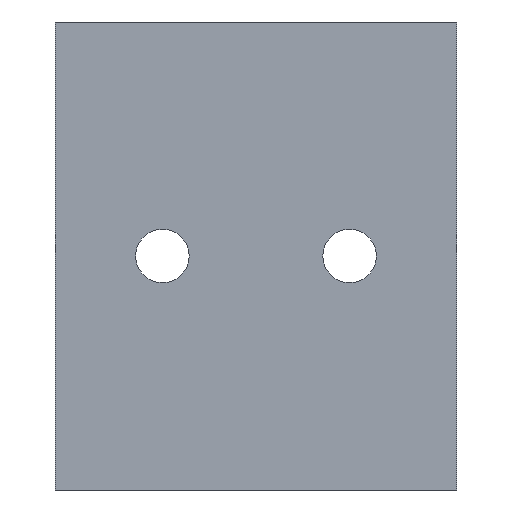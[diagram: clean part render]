
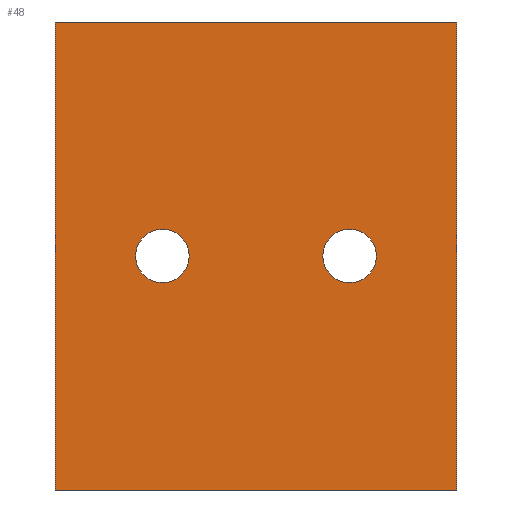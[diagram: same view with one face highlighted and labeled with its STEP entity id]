
A CAD part, front view. The second image highlights one B-rep face of the part: STEP entity #48.
In plain terms, the highlighted planar face has unit normal (0, -1, 0).
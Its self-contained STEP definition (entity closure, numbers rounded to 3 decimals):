
#2 = CARTESIAN_POINT ( 'NONE',  ( -31.598, -5.171, 19.5 ) ) ;
#14 = ORIENTED_EDGE ( 'NONE', *, *, #480, .F. ) ;
#25 = VERTEX_POINT ( 'NONE', #2 ) ;
#32 = CARTESIAN_POINT ( 'NONE',  ( -31.598, -5.171, 15.5 ) ) ;
#43 = EDGE_CURVE ( 'NONE', #501, #522, #181, .T. ) ;
#48 = ADVANCED_FACE ( 'NONE', ( #494, #343, #261 ), #108, .F. ) ;
#59 = AXIS2_PLACEMENT_3D ( 'NONE', #614, #364, #269 ) ;
#71 = ORIENTED_EDGE ( 'NONE', *, *, #488, .T. ) ;
#80 = LINE ( 'NONE', #277, #282 ) ;
#81 = DIRECTION ( 'NONE',  ( -1., 0., 0. ) ) ;
#84 = DIRECTION ( 'NONE',  ( 1., 0., 0. ) ) ;
#106 = ORIENTED_EDGE ( 'NONE', *, *, #321, .T. ) ;
#108 = PLANE ( 'NONE',  #617 ) ;
#111 = EDGE_CURVE ( 'NONE', #25, #322, #165, .T. ) ;
#118 = DIRECTION ( 'NONE',  ( 0., 1., 0. ) ) ;
#126 = VERTEX_POINT ( 'NONE', #287 ) ;
#127 = AXIS2_PLACEMENT_3D ( 'NONE', #398, #118, #604 ) ;
#128 = CARTESIAN_POINT ( 'NONE',  ( -39.598, -5.171, 10. ) ) ;
#134 = DIRECTION ( 'NONE',  ( 1., 0., 0. ) ) ;
#148 = AXIS2_PLACEMENT_3D ( 'NONE', #353, #325, #81 ) ;
#150 = CIRCLE ( 'NONE', #59, 2. ) ;
#154 = ORIENTED_EDGE ( 'NONE', *, *, #539, .T. ) ;
#165 = CIRCLE ( 'NONE', #381, 2. ) ;
#168 = EDGE_LOOP ( 'NONE', ( #106, #397, #14, #570 ) ) ;
#169 = LINE ( 'NONE', #128, #557 ) ;
#181 = CIRCLE ( 'NONE', #127, 2. ) ;
#185 = VECTOR ( 'NONE', #134, 1000. ) ;
#213 = CARTESIAN_POINT ( 'NONE',  ( -39.598, -5.171, 10. ) ) ;
#223 = EDGE_CURVE ( 'NONE', #359, #340, #169, .T. ) ;
#226 = CARTESIAN_POINT ( 'NONE',  ( -17.598, -5.171, 19.5 ) ) ;
#255 = DIRECTION ( 'NONE',  ( -1., 0., 0. ) ) ;
#260 = CARTESIAN_POINT ( 'NONE',  ( -31.598, -5.171, 17.5 ) ) ;
#261 = FACE_OUTER_BOUND ( 'NONE', #168, .T. ) ;
#262 = DIRECTION ( 'NONE',  ( 0., 0., -1. ) ) ;
#269 = DIRECTION ( 'NONE',  ( -1., 0., 0. ) ) ;
#277 = CARTESIAN_POINT ( 'NONE',  ( -9.598, -5.171, 10. ) ) ;
#282 = VECTOR ( 'NONE', #379, 1000. ) ;
#287 = CARTESIAN_POINT ( 'NONE',  ( -9.598, -5.171, 35. ) ) ;
#298 = DIRECTION ( 'NONE',  ( 0., 1., 0. ) ) ;
#310 = EDGE_CURVE ( 'NONE', #126, #446, #80, .T. ) ;
#321 = EDGE_CURVE ( 'NONE', #340, #446, #329, .T. ) ;
#322 = VERTEX_POINT ( 'NONE', #32 ) ;
#325 = DIRECTION ( 'NONE',  ( 0., 1., 0. ) ) ;
#329 = LINE ( 'NONE', #577, #389 ) ;
#340 = VERTEX_POINT ( 'NONE', #526 ) ;
#343 = FACE_BOUND ( 'NONE', #593, .T. ) ;
#347 = DIRECTION ( 'NONE',  ( -1., 0., 0. ) ) ;
#353 = CARTESIAN_POINT ( 'NONE',  ( -31.598, -5.171, 17.5 ) ) ;
#359 = VERTEX_POINT ( 'NONE', #478 ) ;
#364 = DIRECTION ( 'NONE',  ( 0., 1., 0. ) ) ;
#371 = LINE ( 'NONE', #573, #185 ) ;
#376 = CIRCLE ( 'NONE', #148, 2. ) ;
#379 = DIRECTION ( 'NONE',  ( 0., 0., -1. ) ) ;
#381 = AXIS2_PLACEMENT_3D ( 'NONE', #260, #298, #255 ) ;
#389 = VECTOR ( 'NONE', #84, 1000. ) ;
#397 = ORIENTED_EDGE ( 'NONE', *, *, #310, .F. ) ;
#398 = CARTESIAN_POINT ( 'NONE',  ( -17.598, -5.171, 17.5 ) ) ;
#446 = VERTEX_POINT ( 'NONE', #474 ) ;
#448 = ORIENTED_EDGE ( 'NONE', *, *, #43, .T. ) ;
#474 = CARTESIAN_POINT ( 'NONE',  ( -9.598, -5.171, 0. ) ) ;
#478 = CARTESIAN_POINT ( 'NONE',  ( -39.598, -5.171, 35. ) ) ;
#480 = EDGE_CURVE ( 'NONE', #359, #126, #371, .T. ) ;
#488 = EDGE_CURVE ( 'NONE', #322, #25, #376, .T. ) ;
#494 = FACE_BOUND ( 'NONE', #540, .T. ) ;
#501 = VERTEX_POINT ( 'NONE', #513 ) ;
#513 = CARTESIAN_POINT ( 'NONE',  ( -17.598, -5.171, 15.5 ) ) ;
#522 = VERTEX_POINT ( 'NONE', #226 ) ;
#526 = CARTESIAN_POINT ( 'NONE',  ( -39.598, -5.171, 0. ) ) ;
#537 = ORIENTED_EDGE ( 'NONE', *, *, #111, .T. ) ;
#539 = EDGE_CURVE ( 'NONE', #522, #501, #150, .T. ) ;
#540 = EDGE_LOOP ( 'NONE', ( #537, #71 ) ) ;
#557 = VECTOR ( 'NONE', #262, 1000. ) ;
#570 = ORIENTED_EDGE ( 'NONE', *, *, #223, .T. ) ;
#573 = CARTESIAN_POINT ( 'NONE',  ( -39.598, -5.171, 35. ) ) ;
#577 = CARTESIAN_POINT ( 'NONE',  ( -39.598, -5.171, 0. ) ) ;
#593 = EDGE_LOOP ( 'NONE', ( #154, #448 ) ) ;
#597 = DIRECTION ( 'NONE',  ( 0., 1., 0. ) ) ;
#604 = DIRECTION ( 'NONE',  ( -1., 0., 0. ) ) ;
#614 = CARTESIAN_POINT ( 'NONE',  ( -17.598, -5.171, 17.5 ) ) ;
#617 = AXIS2_PLACEMENT_3D ( 'NONE', #213, #597, #347 ) ;
